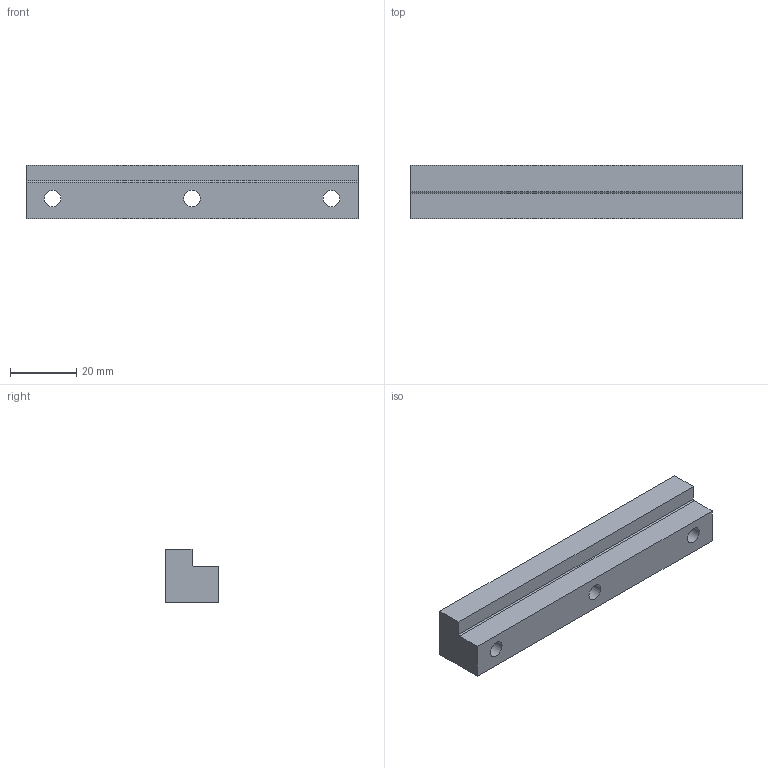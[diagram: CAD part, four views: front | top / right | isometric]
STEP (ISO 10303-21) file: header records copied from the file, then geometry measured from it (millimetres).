
FILE_DESCRIPTION(/* description */ ('STEP AP214'),/* implementation_level */ '2;1');
FILE_NAME(/* name */ 'F31191608100',/* time_stamp */ '2024-06-21T14:35:25+02:00',/* author */ ('License CC BY-ND 4.0'),/* organization */ ('CADENAS'),/* preprocessor_version */ 'ST-DEVELOPER v19.3',/* originating_system */ 'PARTsolutions',/* authorisation */ ' ');
FILE_SCHEMA (('AUTOMOTIVE_DESIGN {1 0 10303 214 3 1 1}'));
Length unit declared in the file: millimetre
Products named in the file (1): F31191608100
Bounding box: 100 x 16 x 16 mm (x, y, z)
Volume: 20208.6 mm3; surface area: 7601.9 mm2
Topology: 1 solids, 1 shells, 18 faces, 39 edges, 26 vertices
Faces by surface type: plane 11, cylinder 7
Full cylindrical faces by diameter (mm): 5 x3, 7 x3
Entity records: 509 total; most frequent: DIRECTION 85, CARTESIAN_POINT 78, ORIENTED_EDGE 66, EDGE_CURVE 33, EDGE_LOOP 33, FACE_BOUND 33, AXIS2_PLACEMENT_3D 33, VERTEX_POINT 26
